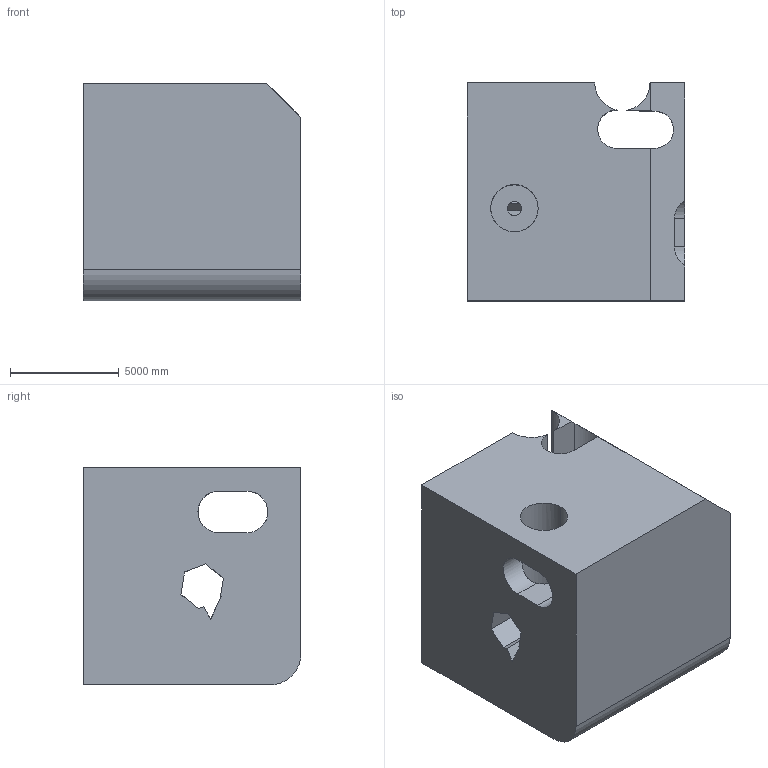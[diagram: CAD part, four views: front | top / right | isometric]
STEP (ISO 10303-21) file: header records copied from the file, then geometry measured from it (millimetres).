
FILE_DESCRIPTION (( 'STEP AP203' ), '1' );
FILE_NAME ('368.STEP', '2022-09-07T13:15:18', ( 'user' ), ( '' ), 'SwSTEP 2.0', 'SolidWorks 2021', '' );
FILE_SCHEMA (( 'CONFIG_CONTROL_DESIGN' ));
Length unit declared in the file: centimetre
Products named in the file (1): 368
Bounding box: 10000 x 10000 x 10000 mm (x, y, z)
Volume: 782106015425.1 mm3; surface area: 863396159.1 mm2
Topology: 1 solids, 1 shells, 60 faces, 180 edges, 120 vertices
Faces by surface type: plane 45, cylinder 15
Entity records: 2389 total; most frequent: CARTESIAN_POINT 757, ORIENTED_EDGE 360, DIRECTION 288, EDGE_CURVE 180, VERTEX_POINT 120, VECTOR 118, LINE 118, AXIS2_PLACEMENT_3D 85
